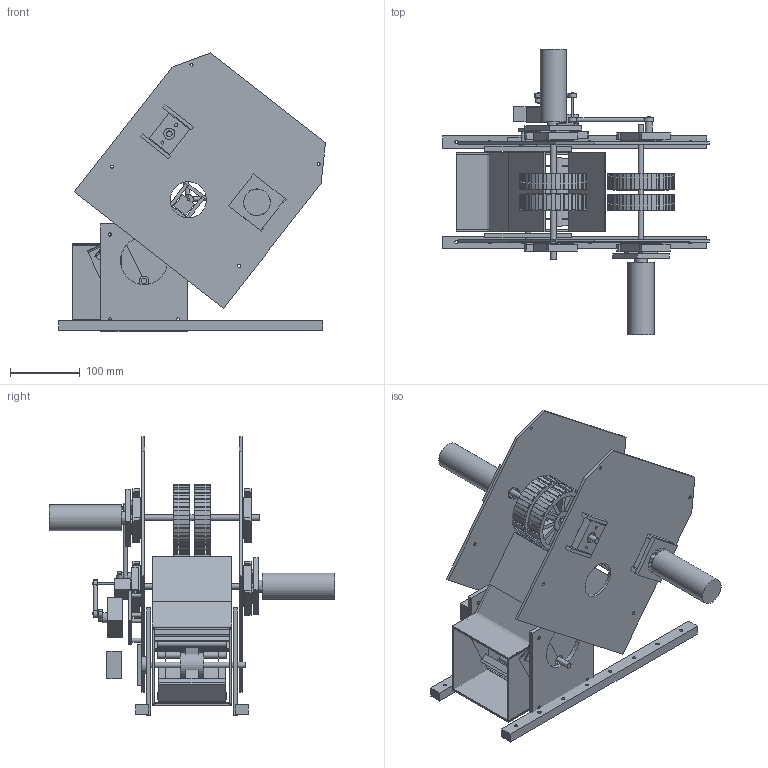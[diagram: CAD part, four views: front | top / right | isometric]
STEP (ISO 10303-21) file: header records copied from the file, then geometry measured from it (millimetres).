
FILE_DESCRIPTION(('Open CASCADE Model'),'2;1');
FILE_NAME('Open CASCADE Shape Model','2026-09-21T16:05:04',('Author'),( 'Open CASCADE'),'Open CASCADE STEP processor 7.8','Open CASCADE 7.8' ,'Unknown');
FILE_SCHEMA(('AUTOMOTIVE_DESIGN { 1 0 10303 214 1 1 1 1 }'));
Length unit declared in the file: millimetre
Products named in the file (114): paddle_launcher_constrained_pollen; base_rail_-72; base_rail_+72; guide_floor_1; guide_roof_1; guide_wall_1_-1; guide_wall_1_+1; guide_floor_2; guide_roof_2; guide_wall_2_-1; guide_wall_2_+1; guide_floor_3; guide_roof_3; guide_wall_3_-1; guide_wall_3_+1; paddle_support_cheek_-1; paddle_support_cheek_+1; paddle_shaft_8mm; paddle_hub; paddle_arm_1; paddle_hinge_1; paddle_blade_1; paddle_flex_tip_1; paddle_arm_2; paddle_hinge_2; paddle_blade_2; paddle_flex_tip_2; paddle_arm_3; paddle_hinge_3; paddle_blade_3; paddle_flex_tip_3; paddle_cr_servo_envelope; paddle_servo_block; paddle_shaft_clamp; one_way_finger_-1; one_way_finger_+1; shooter_side_plate_-1; shooter_side_plate_+1; flywheel_shaft_upper; gecko_flywheel_upper_1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
Assembly tree (113 placements, depth 2):
  paddle_launcher_constrained_pollen
    base_rail_-72
    base_rail_+72
    guide_floor_1
    guide_roof_1
    guide_wall_1_-1
    guide_wall_1_+1
    guide_floor_2
    guide_roof_2
    guide_wall_2_-1
    guide_wall_2_+1
    guide_floor_3
    guide_roof_3
    guide_wall_3_-1
    guide_wall_3_+1
    paddle_support_cheek_-1
    paddle_support_cheek_+1
    paddle_shaft_8mm
    paddle_hub
    paddle_arm_1
    paddle_hinge_1
    paddle_blade_1
    paddle_flex_tip_1
    paddle_arm_2
    paddle_hinge_2
    paddle_blade_2
    paddle_flex_tip_2
    paddle_arm_3
    paddle_hinge_3
    paddle_blade_3
    paddle_flex_tip_3
    paddle_cr_servo_envelope
    paddle_servo_block
    paddle_shaft_clamp
    one_way_finger_-1
    one_way_finger_+1
    shooter_side_plate_-1
    shooter_side_plate_+1
    flywheel_shaft_upper
    gecko_flywheel_upper_1
    sonic_hub_upper_1
    hub_bolt_upper_1_1
    hub_bolt_upper_1_2
    hub_bolt_upper_1_3
    hub_bolt_upper_1_4
    gecko_flywheel_upper_2
    sonic_hub_upper_2
    hub_bolt_upper_2_1
    hub_bolt_upper_2_2
    hub_bolt_upper_2_3
    hub_bolt_upper_2_4
    bearing_carriage_upper_-1
    bearing_insert_upper_-1
    carriage_guide_upper_-1_-26.5
    carriage_guide_upper_-1_+26.5
    bearing_carriage_upper_+1
    bearing_insert_upper_+1
    carriage_guide_upper_+1_-26.5
    carriage_guide_upper_+1_+26.5
    motor_mount_upper
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Bounding box: 383.85 x 410 x 400.02 mm (x, y, z)
Volume: 2403329.3 mm3; surface area: 1028446.2 mm2
Topology: 113 solids, 113 shells, 1402 faces, 3204 edges, 2136 vertices
Faces by surface type: plane 1192, cylinder 210
Full cylindrical faces by diameter (mm): 4 x20, 4.2 x29, 4.4 x20, 4.6 x24, 6 x6, 6.4 x2, 8 x3, 8.2 x12, 10 x5, 14 x3, 14.2 x8, 16 x4, 16.2 x4, 16.4 x1, 18 x2, 24 x1, 30 x4, 32 x4, 36 x1, 38 x2, 38.4 x2, 44 x4, 52 x2, 68 x2, 79 x4, 92 x4
Entity records: 90080 total; most frequent: CARTESIAN_POINT 19290, DIRECTION 13312, LINE 7822, VECTOR 7822, ORIENTED_EDGE 6408, PCURVE 6408, DEFINITIONAL_REPRESENTATION 6408, EDGE_CURVE 3204
